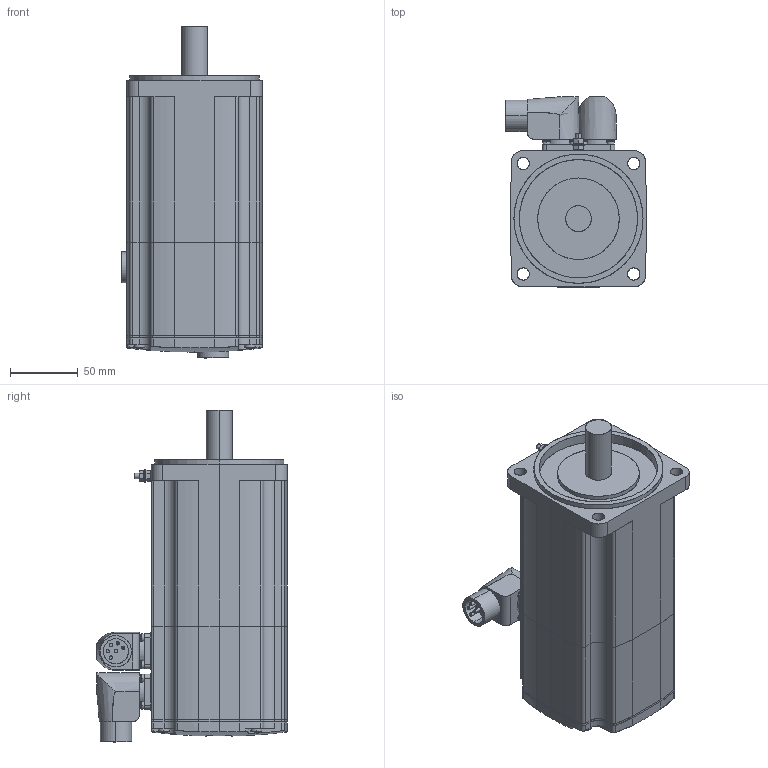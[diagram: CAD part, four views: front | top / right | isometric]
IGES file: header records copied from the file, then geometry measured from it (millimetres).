
Start section: SolidWorks IGES file using analytic representation for surfaces
Global section: file name: C:\PDM\SW-SAP\AA-IGES\SH31001x0xF2100.IGS; native system: SolidWorks 2010; preprocessor: SolidWorks 2010; author: SESA21951; date: 131129.100544; units: millimetre
Bounding box: 103.65 x 139.9 x 244.25 mm (x, y, z)
Surface area: 168608.7 mm2 (no closed solid volume)
Topology: 0 solids, 0 shells, 455 faces, 6774 edges, 6774 vertices
Faces by surface type: revolution 239, bspline 216
